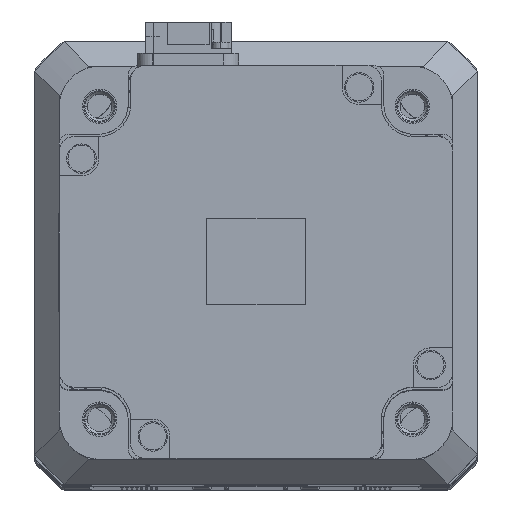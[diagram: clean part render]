
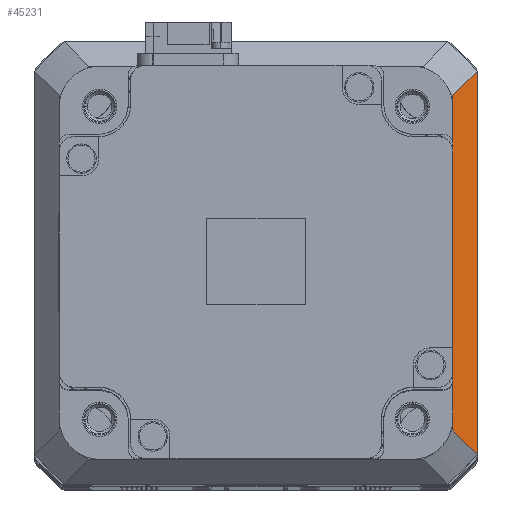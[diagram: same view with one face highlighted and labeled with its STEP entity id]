
A CAD part, top view. The second image highlights one B-rep face of the part: STEP entity #45231.
In plain terms, the highlighted planar face has unit normal (0.707, 0, 0.707).
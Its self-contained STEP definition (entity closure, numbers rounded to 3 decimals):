
#618 = VERTEX_POINT ( 'NONE', #30176 ) ;
#1684 = EDGE_LOOP ( 'NONE', ( #4407, #43811, #47689, #44252 ) ) ;
#2603 = B_SPLINE_CURVE_WITH_KNOTS ( 'NONE', 3,
 ( #6742, #30373, #38337, #14670 ),
 .UNSPECIFIED., .F., .F.,
 ( 4, 4 ),
 ( 0., 0.009 ),
 .UNSPECIFIED. ) ;
#4407 = ORIENTED_EDGE ( 'NONE', *, *, #35863, .F. ) ;
#6742 = CARTESIAN_POINT ( 'NONE',  ( 45., -39.003, 94. ) ) ;
#7345 = PLANE ( 'NONE',  #28426 ) ;
#7406 = CARTESIAN_POINT ( 'NONE',  ( 41.666, 35.671, 97.334 ) ) ;
#11274 = DIRECTION ( 'NONE',  ( 0.707, 0., -0.707 ) ) ;
#11353 = CARTESIAN_POINT ( 'NONE',  ( 45., 39.003, 94. ) ) ;
#14670 = CARTESIAN_POINT ( 'NONE',  ( 40., -34.004, 99. ) ) ;
#15610 = CARTESIAN_POINT ( 'NONE',  ( 40., -34.004, 99. ) ) ;
#16461 = VECTOR ( 'NONE', #44114, 1000. ) ;
#17246 = EDGE_CURVE ( 'NONE', #38441, #618, #26999, .T. ) ;
#17732 = B_SPLINE_CURVE_WITH_KNOTS ( 'NONE', 3,
 ( #35015, #7406, #27135, #11353 ),
 .UNSPECIFIED., .F., .F.,
 ( 4, 4 ),
 ( 0., 0.009 ),
 .UNSPECIFIED. ) ;
#18070 = EDGE_CURVE ( 'NONE', #618, #28356, #2603, .T. ) ;
#22039 = CARTESIAN_POINT ( 'NONE',  ( 40., 0., 99. ) ) ;
#25875 = CARTESIAN_POINT ( 'NONE',  ( 45., 39.003, 94. ) ) ;
#26999 = LINE ( 'NONE', #28245, #16461 ) ;
#27069 = CARTESIAN_POINT ( 'NONE',  ( 42.5, 0., 96.5 ) ) ;
#27135 = CARTESIAN_POINT ( 'NONE',  ( 43.333, 37.337, 95.667 ) ) ;
#28245 = CARTESIAN_POINT ( 'NONE',  ( 45., -24., 94. ) ) ;
#28356 = VERTEX_POINT ( 'NONE', #15610 ) ;
#28426 = AXIS2_PLACEMENT_3D ( 'NONE', #27069, #34943, #11274 ) ;
#29947 = VECTOR ( 'NONE', #41685, 1000. ) ;
#30176 = CARTESIAN_POINT ( 'NONE',  ( 45., -39.003, 94. ) ) ;
#30373 = CARTESIAN_POINT ( 'NONE',  ( 43.333, -37.337, 95.667 ) ) ;
#31160 = LINE ( 'NONE', #22039, #29947 ) ;
#34943 = DIRECTION ( 'NONE',  ( -0.707, 0., -0.707 ) ) ;
#35015 = CARTESIAN_POINT ( 'NONE',  ( 40., 34.004, 99. ) ) ;
#35863 = EDGE_CURVE ( 'NONE', #40855, #38441, #17732, .T. ) ;
#38337 = CARTESIAN_POINT ( 'NONE',  ( 41.666, -35.671, 97.334 ) ) ;
#38441 = VERTEX_POINT ( 'NONE', #25875 ) ;
#40855 = VERTEX_POINT ( 'NONE', #49672 ) ;
#41450 = FACE_OUTER_BOUND ( 'NONE', #1684, .T. ) ;
#41685 = DIRECTION ( 'NONE',  ( 0., 1., 0. ) ) ;
#43095 = EDGE_CURVE ( 'NONE', #28356, #40855, #31160, .T. ) ;
#43811 = ORIENTED_EDGE ( 'NONE', *, *, #43095, .F. ) ;
#44114 = DIRECTION ( 'NONE',  ( 0., -1., 0. ) ) ;
#44252 = ORIENTED_EDGE ( 'NONE', *, *, #17246, .F. ) ;
#45231 = ADVANCED_FACE ( 'NONE', ( #41450 ), #7345, .F. ) ;
#47689 = ORIENTED_EDGE ( 'NONE', *, *, #18070, .F. ) ;
#49672 = CARTESIAN_POINT ( 'NONE',  ( 40., 34.004, 99. ) ) ;
